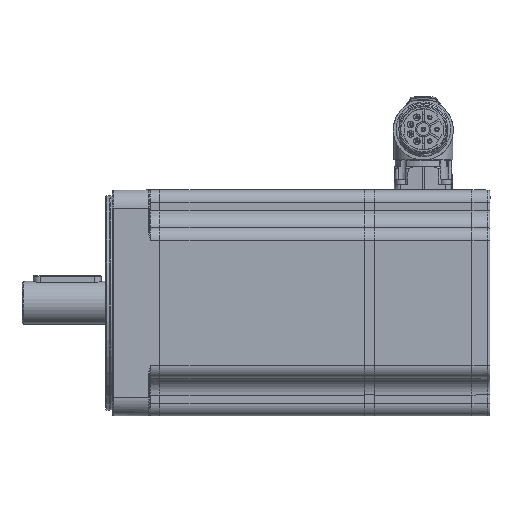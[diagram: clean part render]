
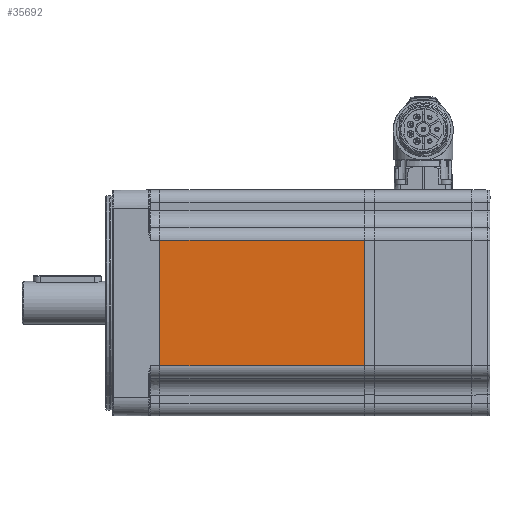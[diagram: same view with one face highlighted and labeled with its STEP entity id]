
A CAD part, left-side view. The second image highlights one B-rep face of the part: STEP entity #35692.
In plain terms, the highlighted planar face has unit normal (-1, 0, 0) as drawn and (1, 0, 0) by its records, which use the part's own axes.
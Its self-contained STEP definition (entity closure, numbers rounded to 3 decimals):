
#12433=LINE('',#48896,#14169);
#12451=LINE('',#48981,#14187);
#12458=LINE('',#49020,#14194);
#12459=LINE('',#49021,#14195);
#14169=VECTOR('',#41281,1000.);
#14187=VECTOR('',#41349,1000.);
#14194=VECTOR('',#41396,1000.);
#14195=VECTOR('',#41397,1000.);
#17211=ORIENTED_EDGE('',*,*,#23880,.T.);
#17212=ORIENTED_EDGE('',*,*,#23821,.T.);
#17213=ORIENTED_EDGE('',*,*,#23881,.T.);
#17214=ORIENTED_EDGE('',*,*,#23863,.T.);
#23821=EDGE_CURVE('',#27283,#27282,#12433,.T.);
#23863=EDGE_CURVE('',#27325,#27324,#12451,.T.);
#23880=EDGE_CURVE('',#27324,#27283,#12458,.T.);
#23881=EDGE_CURVE('',#27282,#27325,#12459,.T.);
#27282=VERTEX_POINT('',#48895);
#27283=VERTEX_POINT('',#48897);
#27324=VERTEX_POINT('',#48980);
#27325=VERTEX_POINT('',#48982);
#30866=EDGE_LOOP('',(#17211,#17212,#17213,#17214));
#32989=FACE_BOUND('',#30866,.T.);
#34714=PLANE('',#37788);
#35692=ADVANCED_FACE('',(#32989),#34714,.T.);
#37788=AXIS2_PLACEMENT_3D('',#49019,#41394,#41395);
#41281=DIRECTION('',(0.,0.,1.));
#41349=DIRECTION('',(0.,0.,-1.));
#41394=DIRECTION('',(1.,0.,0.));
#41395=DIRECTION('',(0.,0.,-1.));
#41396=DIRECTION('',(0.,1.,0.));
#41397=DIRECTION('',(0.,-1.,0.));
#48895=CARTESIAN_POINT('',(50.,91.5,27.75));
#48896=CARTESIAN_POINT('',(50.,91.5,-50.));
#48897=CARTESIAN_POINT('',(50.,91.5,-27.75));
#48980=CARTESIAN_POINT('',(50.,1.,-27.75));
#48981=CARTESIAN_POINT('',(50.,1.,-50.));
#48982=CARTESIAN_POINT('',(50.,1.,27.75));
#49019=CARTESIAN_POINT('',(50.,200.,-50.));
#49020=CARTESIAN_POINT('',(50.,200.,-27.75));
#49021=CARTESIAN_POINT('',(50.,200.,27.75));
